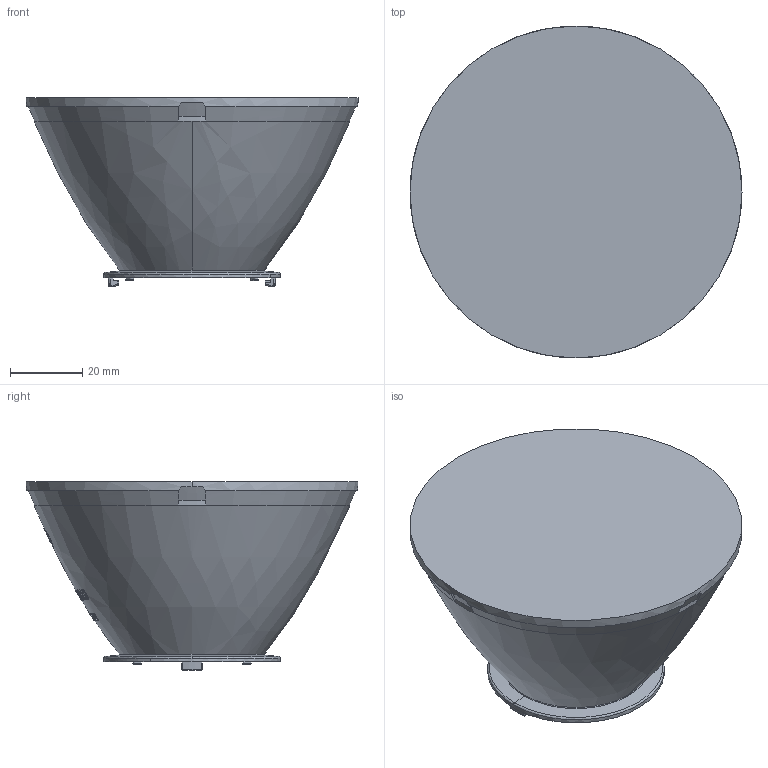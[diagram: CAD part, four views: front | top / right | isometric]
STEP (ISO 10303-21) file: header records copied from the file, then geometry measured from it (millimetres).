
FILE_DESCRIPTION(('CAx-IF Rec.Pracs.---Model Styling and Organization---1.2---2011-12-15','CAx-IF Rec.Pracs.---Geometric and Assembly Validation Properties---4.3---2015-07-16','CAx-IF Rec.Pracs.---Representation and Presentation of Product Manufacturing Information (PMI)---4.0.3---2016-08-25'),'2;1');
FILE_NAME('022YJ0AY04.stp','2022-05-06T07:47:00+02:00',(''),(''),'STEP Interface 4.5 by CT CoreTechnologie','3D_Evolution4.5 by CT CoreTechnologie','');
FILE_SCHEMA(('AP203_CONFIGURATION_CONTROLLED_3D_DESIGN_OF_MECHANICAL_PARTS_AND_ASSEMBLIES_MIM_LF'));
Length unit declared in the file: millimetre
Products named in the file (1): Ã—Ã©ÂºÃ5
Bounding box: 92 x 92 x 52.35 mm (x, y, z)
Volume: 194642.5 mm3; surface area: 21509.5 mm2
Topology: 1 solids, 1 shells, 402 faces, 1090 edges, 707 vertices
Faces by surface type: bspline 218, plane 142, cylinder 42
Entity records: 68758 total; most frequent: CARTESIAN_POINT 20034, PROPERTY_DEFINITION 6468, SHAPE_REPRESENTATION 3235, SHAPE_DEFINITION_REPRESENTATION 3235, INTEGER_REPRESENTATION_ITEM 3234, REPRESENTATION 3234, SHAPE_ASPECT 3234, ID_ATTRIBUTE 3234
